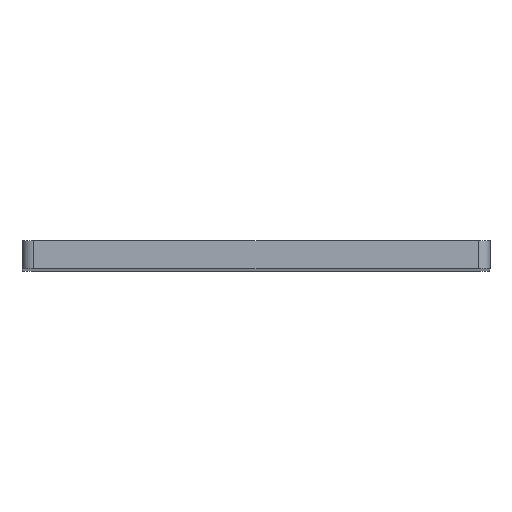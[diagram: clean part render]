
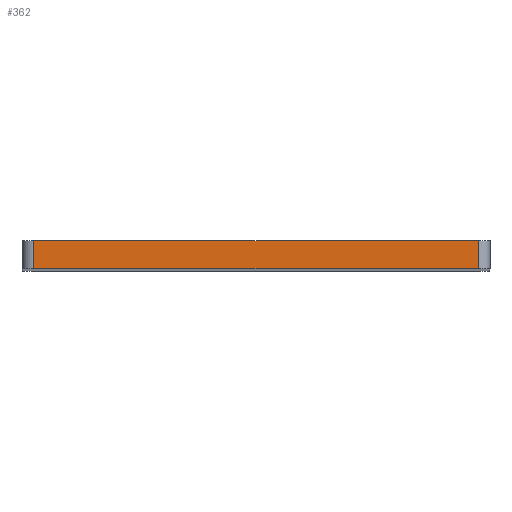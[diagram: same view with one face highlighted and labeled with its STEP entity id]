
A CAD part, top view. The second image highlights one B-rep face of the part: STEP entity #362.
In plain terms, the highlighted planar face has unit normal (0, 0, 1).
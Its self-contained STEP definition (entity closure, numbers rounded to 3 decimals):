
#12 = CARTESIAN_POINT ( 'NONE',  ( -50., 3., 175. ) ) ;
#26 = LINE ( 'NONE', #130, #342 ) ;
#43 = CARTESIAN_POINT ( 'NONE',  ( -50., 3., 175. ) ) ;
#46 = VECTOR ( 'NONE', #471, 1000. ) ;
#51 = LINE ( 'NONE', #203, #241 ) ;
#104 = VERTEX_POINT ( 'NONE', #278 ) ;
#130 = CARTESIAN_POINT ( 'NONE',  ( 47.5, 3., 175. ) ) ;
#185 = EDGE_CURVE ( 'NONE', #733, #399, #26, .T. ) ;
#203 = CARTESIAN_POINT ( 'NONE',  ( -47.5, 3., 175. ) ) ;
#205 = ORIENTED_EDGE ( 'NONE', *, *, #185, .T. ) ;
#210 = CARTESIAN_POINT ( 'NONE',  ( 47.5, 3., 175. ) ) ;
#237 = EDGE_CURVE ( 'NONE', #104, #476, #51, .T. ) ;
#241 = VECTOR ( 'NONE', #372, 1000. ) ;
#278 = CARTESIAN_POINT ( 'NONE',  ( -47.5, 3., 175. ) ) ;
#307 = AXIS2_PLACEMENT_3D ( 'NONE', #12, #685, #431 ) ;
#315 = CARTESIAN_POINT ( 'NONE',  ( 47.5, -3., 175. ) ) ;
#319 = ORIENTED_EDGE ( 'NONE', *, *, #341, .F. ) ;
#325 = LINE ( 'NONE', #434, #46 ) ;
#326 = VECTOR ( 'NONE', #743, 1000. ) ;
#332 = ORIENTED_EDGE ( 'NONE', *, *, #361, .T. ) ;
#341 = EDGE_CURVE ( 'NONE', #104, #399, #345, .T. ) ;
#342 = VECTOR ( 'NONE', #560, 1000. ) ;
#345 = LINE ( 'NONE', #43, #326 ) ;
#356 = FACE_OUTER_BOUND ( 'NONE', #606, .T. ) ;
#361 = EDGE_CURVE ( 'NONE', #476, #733, #325, .T. ) ;
#362 = ADVANCED_FACE ( 'NONE', ( #356 ), #696, .F. ) ;
#372 = DIRECTION ( 'NONE',  ( 0., -1., 0. ) ) ;
#399 = VERTEX_POINT ( 'NONE', #210 ) ;
#411 = CARTESIAN_POINT ( 'NONE',  ( -47.5, -3., 175. ) ) ;
#431 = DIRECTION ( 'NONE',  ( -1., 0., 0. ) ) ;
#434 = CARTESIAN_POINT ( 'NONE',  ( -50., -3., 175. ) ) ;
#471 = DIRECTION ( 'NONE',  ( 1., 0., 0. ) ) ;
#476 = VERTEX_POINT ( 'NONE', #411 ) ;
#560 = DIRECTION ( 'NONE',  ( 0., 1., 0. ) ) ;
#606 = EDGE_LOOP ( 'NONE', ( #332, #205, #319, #682 ) ) ;
#682 = ORIENTED_EDGE ( 'NONE', *, *, #237, .T. ) ;
#685 = DIRECTION ( 'NONE',  ( 0., 0., -1. ) ) ;
#696 = PLANE ( 'NONE',  #307 ) ;
#733 = VERTEX_POINT ( 'NONE', #315 ) ;
#743 = DIRECTION ( 'NONE',  ( 1., 0., 0. ) ) ;
